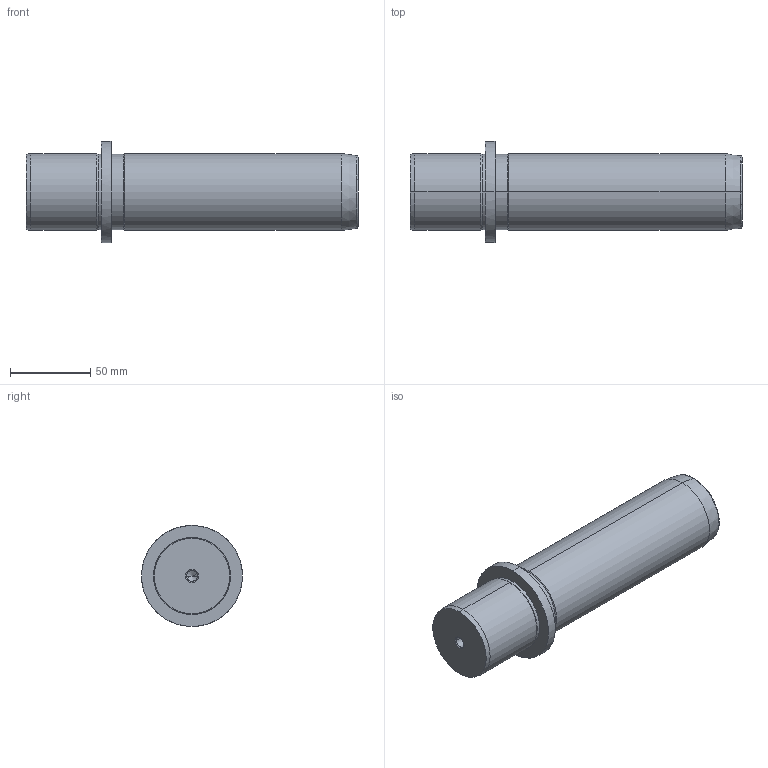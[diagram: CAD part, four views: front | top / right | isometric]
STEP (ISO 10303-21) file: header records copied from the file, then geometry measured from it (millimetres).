
FILE_DESCRIPTION(('CATIA V5 STEP Exchange'),'2;1');
FILE_NAME('C:\Users\Utente\Desktop\IO LAVORO\3D X SITO CF\X SITO\718\718-48x160.stp','2021-01-02T12:36:00+00:00',('none'),('none'),'CATIA Version 5 Release 20 GA (IN-10)','CATIA V5 STEP AP203','none');
FILE_SCHEMA(('CONFIG_CONTROL_DESIGN'));
Length unit declared in the file: millimetre
Products named in the file (1): 718-48x160
Bounding box: 207 x 63 x 63 mm (x, y, z)
Volume: 378646.2 mm3; surface area: 38540.6 mm2
Topology: 1 solids, 1 shells, 36 faces, 100 edges, 66 vertices
Faces by surface type: cone 16, cylinder 14, plane 4, torus 2
Entity records: 1291 total; most frequent: CARTESIAN_POINT 362, ORIENTED_EDGE 192, DIRECTION 157, EDGE_CURVE 96, AXIS2_PLACEMENT_3D 92, VERTEX_POINT 66, CIRCLE 55, EDGE_LOOP 40
